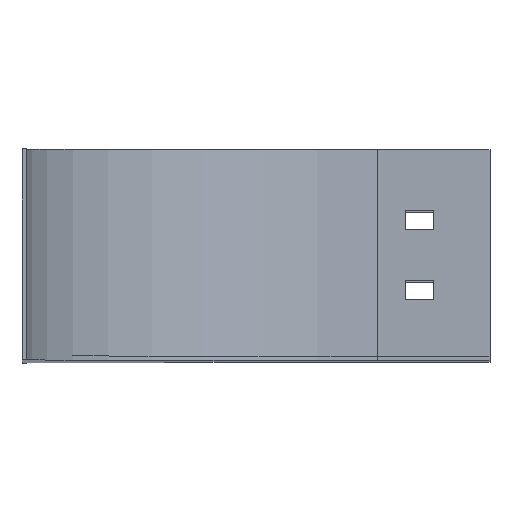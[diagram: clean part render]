
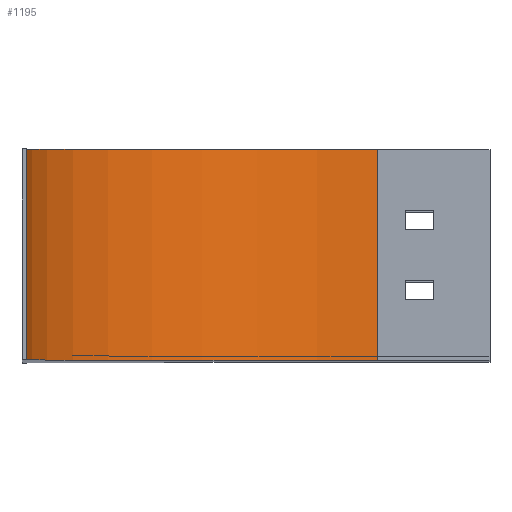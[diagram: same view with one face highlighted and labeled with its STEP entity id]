
A CAD part, top view. The second image highlights one B-rep face of the part: STEP entity #1195.
In plain terms, the highlighted cylindrical face has radius 125 mm (diameter 250 mm), a partial arc.
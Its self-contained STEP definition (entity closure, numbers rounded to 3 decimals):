
#20 = DIRECTION ( 'NONE',  ( 0., 0., -1. ) ) ;
#50 = VECTOR ( 'NONE', #771, 1000. ) ;
#87 = DIRECTION ( 'NONE',  ( 0., -1., 0. ) ) ;
#142 = VERTEX_POINT ( 'NONE', #402 ) ;
#151 = ORIENTED_EDGE ( 'NONE', *, *, #412, .F. ) ;
#269 = CIRCLE ( 'NONE', #571, 125. ) ;
#373 = CARTESIAN_POINT ( 'NONE',  ( 0., 75., 0. ) ) ;
#402 = CARTESIAN_POINT ( 'NONE',  ( -125., 75., 0. ) ) ;
#404 = CYLINDRICAL_SURFACE ( 'NONE', #1463, 125. ) ;
#409 = CARTESIAN_POINT ( 'NONE',  ( -125., 75., 0. ) ) ;
#412 = EDGE_CURVE ( 'NONE', #142, #701, #269, .T. ) ;
#430 = CARTESIAN_POINT ( 'NONE',  ( 0., 75., 0. ) ) ;
#436 = DIRECTION ( 'NONE',  ( 0., 0., -1. ) ) ;
#535 = CIRCLE ( 'NONE', #1153, 125. ) ;
#547 = ORIENTED_EDGE ( 'NONE', *, *, #717, .T. ) ;
#571 = AXIS2_PLACEMENT_3D ( 'NONE', #373, #1213, #436 ) ;
#606 = DIRECTION ( 'NONE',  ( 0., 0., -1. ) ) ;
#691 = EDGE_CURVE ( 'NONE', #701, #1462, #1676, .T. ) ;
#694 = ORIENTED_EDGE ( 'NONE', *, *, #1636, .T. ) ;
#701 = VERTEX_POINT ( 'NONE', #1289 ) ;
#717 = EDGE_CURVE ( 'NONE', #142, #1400, #1566, .T. ) ;
#764 = CARTESIAN_POINT ( 'NONE',  ( 0., 75., -125. ) ) ;
#771 = DIRECTION ( 'NONE',  ( 0., -1., 0. ) ) ;
#817 = FACE_OUTER_BOUND ( 'NONE', #970, .T. ) ;
#867 = CARTESIAN_POINT ( 'NONE',  ( 0., 0., 0. ) ) ;
#970 = EDGE_LOOP ( 'NONE', ( #694, #1632, #151, #547 ) ) ;
#1051 = CARTESIAN_POINT ( 'NONE',  ( -125., 0., 0. ) ) ;
#1150 = DIRECTION ( 'NONE',  ( 0., -1., 0. ) ) ;
#1153 = AXIS2_PLACEMENT_3D ( 'NONE', #867, #87, #606 ) ;
#1195 = ADVANCED_FACE ( 'NONE', ( #817 ), #404, .F. ) ;
#1213 = DIRECTION ( 'NONE',  ( 0., -1., 0. ) ) ;
#1216 = DIRECTION ( 'NONE',  ( 0., -1., 0. ) ) ;
#1289 = CARTESIAN_POINT ( 'NONE',  ( 0., 75., -125. ) ) ;
#1400 = VERTEX_POINT ( 'NONE', #1051 ) ;
#1460 = VECTOR ( 'NONE', #1150, 1000. ) ;
#1462 = VERTEX_POINT ( 'NONE', #1601 ) ;
#1463 = AXIS2_PLACEMENT_3D ( 'NONE', #430, #1216, #20 ) ;
#1566 = LINE ( 'NONE', #409, #50 ) ;
#1601 = CARTESIAN_POINT ( 'NONE',  ( 0., 0., -125. ) ) ;
#1632 = ORIENTED_EDGE ( 'NONE', *, *, #691, .F. ) ;
#1636 = EDGE_CURVE ( 'NONE', #1400, #1462, #535, .T. ) ;
#1676 = LINE ( 'NONE', #764, #1460 ) ;
